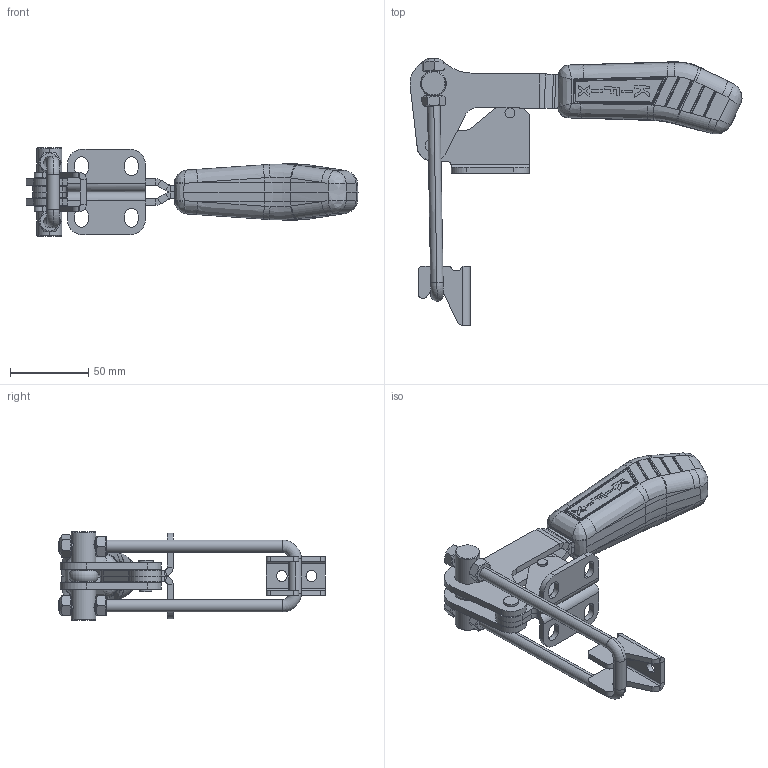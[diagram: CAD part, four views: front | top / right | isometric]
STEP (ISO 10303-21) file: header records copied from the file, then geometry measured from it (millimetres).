
FILE_DESCRIPTION (( 'STEP AP203' ), '1' );
FILE_NAME ('KF-263 D.STEP', '2014-08-22T12:13:51', ( 'Ricardo' ), ( '' ), 'SwSTEP 2.0', 'SolidWorks 2013', '' );
FILE_SCHEMA (( 'CONFIG_CONTROL_DESIGN' ));
Length unit declared in the file: millimetre
Products named in the file (13): 06.50030; 02.12054_Esquerda; 06.50026; 01.10068_Montagem; 07.60003; 01.10068_Esquerda; KF-263 D; 16.20101; 03.20029; 11.50017; 11.50002; 15.10030; 02.12054_Direita
Assembly tree (14 placements, depth 2):
  KF-263 D
    02.12054_Direita
    02.12054_Esquerda
    01.10068_Montagem
    01.10068_Esquerda
    16.20101
    03.20029
    11.50017  x2
    11.50002  x2
    15.10030
    06.50030
    06.50026
    07.60003
Bounding box: 212.61 x 170.96 x 56.5 mm (x, y, z)
Volume: 201980.9 mm3; surface area: 79443.3 mm2
Topology: 14 solids, 14 shells, 706 faces, 1787 edges, 1113 vertices
Faces by surface type: plane 250, cylinder 212, bspline 147, sphere 48, cone 40, torus 9
Entity records: 25475 total; most frequent: CARTESIAN_POINT 9351, ORIENTED_EDGE 3362, DIRECTION 2648, EDGE_CURVE 1681, VERTEX_POINT 1053, AXIS2_PLACEMENT_3D 1030, EDGE_LOOP 732, ADVANCED_FACE 672
